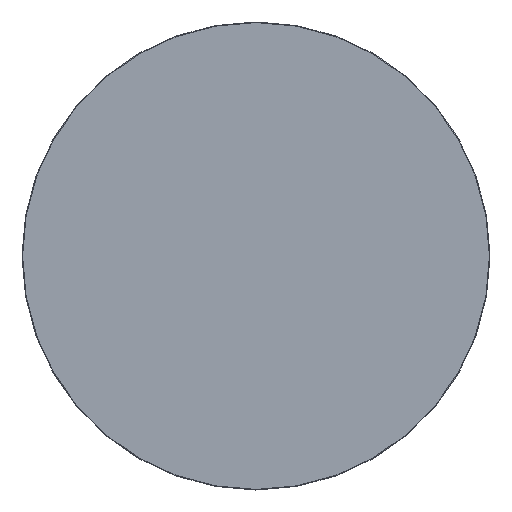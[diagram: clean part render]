
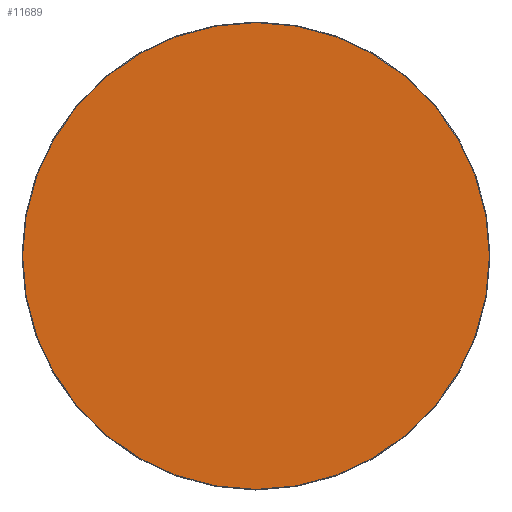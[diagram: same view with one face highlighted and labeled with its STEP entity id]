
A CAD part, top view. The second image highlights one B-rep face of the part: STEP entity #11689.
In plain terms, the highlighted planar face has unit normal (0, 0, 1).
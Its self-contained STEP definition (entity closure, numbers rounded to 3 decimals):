
#11614=CARTESIAN_POINT('',(0.,0.,20.));
#11615=DIRECTION('',(1.,0.,0.));
#11616=DIRECTION('',(0.,0.,1.));
#11617=AXIS2_PLACEMENT_3D('',#11614,#11616,#11615);
#11618=PLANE('',#11617);
#11619=CARTESIAN_POINT('',(-0.5,-598.5,20.));
#11620=VERTEX_POINT('',#11619);
#11621=CARTESIAN_POINT('',(0.5,-598.5,20.));
#11622=VERTEX_POINT('',#11621);
#11623=CARTESIAN_POINT('',(-0.5,-598.5,20.));
#11624=DIRECTION('',(1.,0.,0.));
#11625=VECTOR('',#11624,1.);
#11626=LINE('',#11623,#11625);
#11627=EDGE_CURVE('',#11620,#11622,#11626,.T.);
#11628=ORIENTED_EDGE('E105',*,*,#11627,.T.);
#11629=CARTESIAN_POINT('',(598.5,-0.5,20.));
#11630=VERTEX_POINT('',#11629);
#11631=CARTESIAN_POINT('',(0.5,-0.5,20.));
#11632=DIRECTION('',(0.,-1.,0.));
#11633=DIRECTION('',(0.,0.,1.));
#11634=AXIS2_PLACEMENT_3D('',#11631,#11633,#11632);
#11635=CIRCLE('',#11634,598.);
#11636=EDGE_CURVE('',#11622,#11630,#11635,.T.);
#11637=ORIENTED_EDGE('E107',*,*,#11636,.T.);
#11638=CARTESIAN_POINT('',(598.5,0.5,20.));
#11639=VERTEX_POINT('',#11638);
#11640=CARTESIAN_POINT('',(598.5,-0.5,20.));
#11641=DIRECTION('',(0.,1.,0.));
#11642=VECTOR('',#11641,1.);
#11643=LINE('',#11640,#11642);
#11644=EDGE_CURVE('',#11630,#11639,#11643,.T.);
#11645=ORIENTED_EDGE('E109',*,*,#11644,.T.);
#11646=CARTESIAN_POINT('',(0.5,598.5,20.));
#11647=VERTEX_POINT('',#11646);
#11648=CARTESIAN_POINT('',(0.5,0.5,20.));
#11649=DIRECTION('',(1.,0.,0.));
#11650=DIRECTION('',(0.,0.,1.));
#11651=AXIS2_PLACEMENT_3D('',#11648,#11650,#11649);
#11652=CIRCLE('',#11651,598.);
#11653=EDGE_CURVE('',#11639,#11647,#11652,.T.);
#11654=ORIENTED_EDGE('E111',*,*,#11653,.T.);
#11655=CARTESIAN_POINT('',(-0.5,598.5,20.));
#11656=VERTEX_POINT('',#11655);
#11657=CARTESIAN_POINT('',(0.5,598.5,20.));
#11658=DIRECTION('',(-1.,0.,0.));
#11659=VECTOR('',#11658,1.);
#11660=LINE('',#11657,#11659);
#11661=EDGE_CURVE('',#11647,#11656,#11660,.T.);
#11662=ORIENTED_EDGE('E113',*,*,#11661,.T.);
#11663=CARTESIAN_POINT('',(-598.5,0.5,20.));
#11664=VERTEX_POINT('',#11663);
#11665=CARTESIAN_POINT('',(-0.5,0.5,20.));
#11666=DIRECTION('',(0.,1.,0.));
#11667=DIRECTION('',(0.,0.,1.));
#11668=AXIS2_PLACEMENT_3D('',#11665,#11667,#11666);
#11669=CIRCLE('',#11668,598.);
#11670=EDGE_CURVE('',#11656,#11664,#11669,.T.);
#11671=ORIENTED_EDGE('E115',*,*,#11670,.T.);
#11672=CARTESIAN_POINT('',(-598.5,-0.5,20.));
#11673=VERTEX_POINT('',#11672);
#11674=CARTESIAN_POINT('',(-598.5,0.5,20.));
#11675=DIRECTION('',(0.,-1.,0.));
#11676=VECTOR('',#11675,1.);
#11677=LINE('',#11674,#11676);
#11678=EDGE_CURVE('',#11664,#11673,#11677,.T.);
#11679=ORIENTED_EDGE('E117',*,*,#11678,.T.);
#11680=CARTESIAN_POINT('',(-0.5,-0.5,20.));
#11681=DIRECTION('',(-1.,0.,0.));
#11682=DIRECTION('',(0.,0.,1.));
#11683=AXIS2_PLACEMENT_3D('',#11680,#11682,#11681);
#11684=CIRCLE('',#11683,598.);
#11685=EDGE_CURVE('',#11673,#11620,#11684,.T.);
#11686=ORIENTED_EDGE('E119',*,*,#11685,.T.);
#11687=EDGE_LOOP('',(#11628,#11637,#11645,#11654,#11662,#11671,#11679,#11686));
#11688=FACE_OUTER_BOUND('',#11687,.T.);
#11689=ADVANCED_FACE('F2',(#11688),#11618,.T.);
